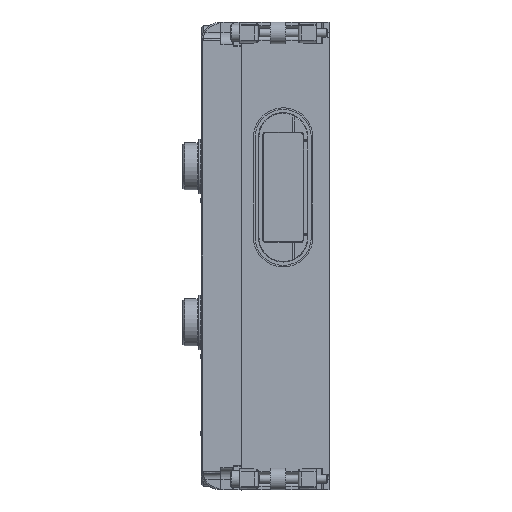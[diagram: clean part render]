
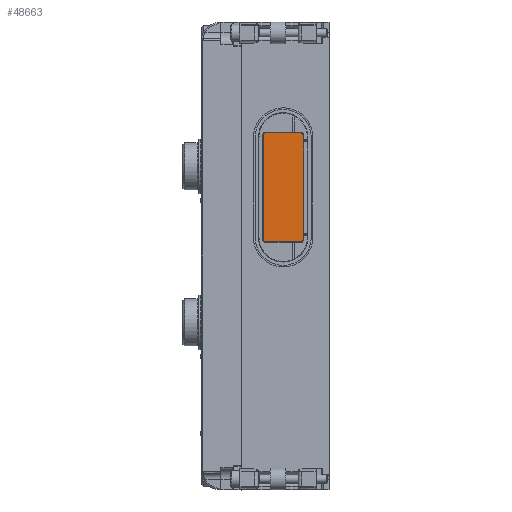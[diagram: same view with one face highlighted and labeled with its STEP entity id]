
A CAD part, left-side view. The second image highlights one B-rep face of the part: STEP entity #48663.
In plain terms, the highlighted planar face has unit normal (-1, 0, 0).
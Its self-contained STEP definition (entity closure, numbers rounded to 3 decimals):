
#1035 = CARTESIAN_POINT ( 'NONE',  ( -32.3, -5.8, 4.5 ) ) ;
#1141 = DIRECTION ( 'NONE',  ( -1., 0., 0. ) ) ;
#2413 = PLANE ( 'NONE',  #51320 ) ;
#3126 = VECTOR ( 'NONE', #41008, 1000. ) ;
#3586 = DIRECTION ( 'NONE',  ( 0., -1., 0. ) ) ;
#4097 = AXIS2_PLACEMENT_3D ( 'NONE', #52569, #20457, #57938 ) ;
#5368 = ORIENTED_EDGE ( 'NONE', *, *, #14286, .T. ) ;
#5464 = CIRCLE ( 'NONE', #12113, 0.8 ) ;
#7133 = CARTESIAN_POINT ( 'NONE',  ( -32.3, 7., 5.3 ) ) ;
#8561 = ORIENTED_EDGE ( 'NONE', *, *, #25456, .F. ) ;
#9189 = VECTOR ( 'NONE', #3586, 1000. ) ;
#11344 = VERTEX_POINT ( 'NONE', #12891 ) ;
#11881 = EDGE_CURVE ( 'NONE', #43133, #48722, #58954, .T. ) ;
#12113 = AXIS2_PLACEMENT_3D ( 'NONE', #44502, #12385, #49919 ) ;
#12385 = DIRECTION ( 'NONE',  ( -1., 0., 0. ) ) ;
#12891 = CARTESIAN_POINT ( 'NONE',  ( -32.3, 6.2, 39.5 ) ) ;
#14001 = CARTESIAN_POINT ( 'NONE',  ( -32.3, -5., 4.5 ) ) ;
#14215 = ORIENTED_EDGE ( 'NONE', *, *, #67674, .T. ) ;
#14286 = EDGE_CURVE ( 'NONE', #43133, #60263, #28821, .T. ) ;
#15300 = EDGE_CURVE ( 'NONE', #11344, #60263, #23451, .T. ) ;
#15963 = CARTESIAN_POINT ( 'NONE',  ( -32.3, -5., 39.5 ) ) ;
#16419 = ORIENTED_EDGE ( 'NONE', *, *, #66317, .T. ) ;
#17346 = AXIS2_PLACEMENT_3D ( 'NONE', #33289, #1141, #38726 ) ;
#18273 = CARTESIAN_POINT ( 'NONE',  ( -32.3, -5.8, 38.7 ) ) ;
#20457 = DIRECTION ( 'NONE',  ( -1., 0., 0. ) ) ;
#23451 = LINE ( 'NONE', #35726, #9189 ) ;
#23454 = VERTEX_POINT ( 'NONE', #14001 ) ;
#23921 = ORIENTED_EDGE ( 'NONE', *, *, #68388, .T. ) ;
#23987 = CARTESIAN_POINT ( 'NONE',  ( -32.3, 0.6, 6. ) ) ;
#25456 = EDGE_CURVE ( 'NONE', #23454, #49106, #60179, .T. ) ;
#28821 = CIRCLE ( 'NONE', #17346, 0.8 ) ;
#29375 = DIRECTION ( 'NONE',  ( 0., 0., -1. ) ) ;
#29617 = FACE_OUTER_BOUND ( 'NONE', #34342, .T. ) ;
#29796 = CARTESIAN_POINT ( 'NONE',  ( -32.3, -5.8, 5.3 ) ) ;
#29891 = CARTESIAN_POINT ( 'NONE',  ( -32.3, 6.2, 38.7 ) ) ;
#31523 = LINE ( 'NONE', #37126, #44116 ) ;
#32733 = EDGE_CURVE ( 'NONE', #56356, #63395, #31523, .T. ) ;
#33289 = CARTESIAN_POINT ( 'NONE',  ( -32.3, -5., 38.7 ) ) ;
#33436 = CARTESIAN_POINT ( 'NONE',  ( -32.3, 7., 38.7 ) ) ;
#34342 = EDGE_LOOP ( 'NONE', ( #45499, #14215, #8561, #23921, #41656, #5368, #42936, #16419 ) ) ;
#35309 = DIRECTION ( 'NONE',  ( 0., 0., -1. ) ) ;
#35726 = CARTESIAN_POINT ( 'NONE',  ( -32.3, 7., 39.5 ) ) ;
#37126 = CARTESIAN_POINT ( 'NONE',  ( -32.3, 7., 4.5 ) ) ;
#38726 = DIRECTION ( 'NONE',  ( 0., 0., -1. ) ) ;
#41008 = DIRECTION ( 'NONE',  ( 0., 1., 0. ) ) ;
#41656 = ORIENTED_EDGE ( 'NONE', *, *, #11881, .F. ) ;
#42936 = ORIENTED_EDGE ( 'NONE', *, *, #15300, .F. ) ;
#43001 = VECTOR ( 'NONE', #65565, 1000. ) ;
#43133 = VERTEX_POINT ( 'NONE', #18273 ) ;
#44116 = VECTOR ( 'NONE', #58449, 1000. ) ;
#44502 = CARTESIAN_POINT ( 'NONE',  ( -32.3, 6.2, 5.3 ) ) ;
#44781 = CARTESIAN_POINT ( 'NONE',  ( -32.3, 6.2, 4.5 ) ) ;
#45499 = ORIENTED_EDGE ( 'NONE', *, *, #32733, .F. ) ;
#48663 = ADVANCED_FACE ( 'NONE', ( #29617 ), #2413, .F. ) ;
#48722 = VERTEX_POINT ( 'NONE', #29796 ) ;
#49106 = VERTEX_POINT ( 'NONE', #44781 ) ;
#49919 = DIRECTION ( 'NONE',  ( 0., 0., -1. ) ) ;
#51320 = AXIS2_PLACEMENT_3D ( 'NONE', #23987, #61504, #29375 ) ;
#52569 = CARTESIAN_POINT ( 'NONE',  ( -32.3, -5., 5.3 ) ) ;
#56356 = VERTEX_POINT ( 'NONE', #7133 ) ;
#57938 = DIRECTION ( 'NONE',  ( 0., 0., -1. ) ) ;
#58449 = DIRECTION ( 'NONE',  ( 0., 0., 1. ) ) ;
#58954 = LINE ( 'NONE', #1035, #43001 ) ;
#60179 = LINE ( 'NONE', #67762, #3126 ) ;
#60263 = VERTEX_POINT ( 'NONE', #15963 ) ;
#60603 = CIRCLE ( 'NONE', #4097, 0.8 ) ;
#61439 = AXIS2_PLACEMENT_3D ( 'NONE', #29891, #67435, #35309 ) ;
#61504 = DIRECTION ( 'NONE',  ( 1., 0., 0. ) ) ;
#63395 = VERTEX_POINT ( 'NONE', #33436 ) ;
#65565 = DIRECTION ( 'NONE',  ( 0., 0., -1. ) ) ;
#66317 = EDGE_CURVE ( 'NONE', #11344, #63395, #68697, .T. ) ;
#67435 = DIRECTION ( 'NONE',  ( -1., 0., 0. ) ) ;
#67674 = EDGE_CURVE ( 'NONE', #56356, #49106, #5464, .T. ) ;
#67762 = CARTESIAN_POINT ( 'NONE',  ( -32.3, 7., 4.5 ) ) ;
#68388 = EDGE_CURVE ( 'NONE', #23454, #48722, #60603, .T. ) ;
#68697 = CIRCLE ( 'NONE', #61439, 0.8 ) ;
